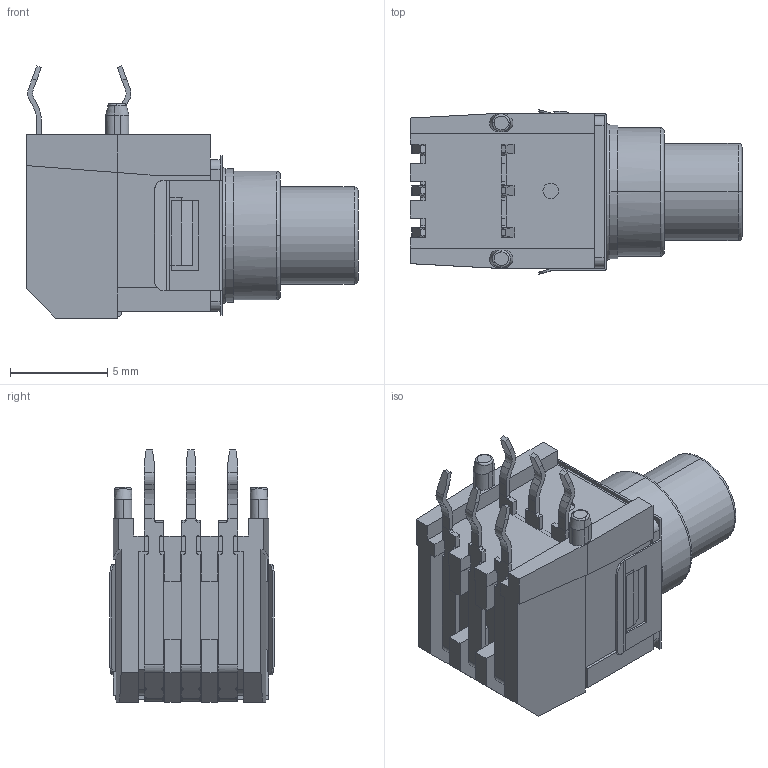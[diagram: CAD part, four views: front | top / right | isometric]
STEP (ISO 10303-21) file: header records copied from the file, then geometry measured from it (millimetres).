
FILE_DESCRIPTION (( 'STEP AP203' ), '1' );
FILE_NAME ('PTCT-xx.STEP', '2013-09-25T02:47:05', ( '970704' ), ( '' ), 'SwSTEP 2.0', 'SolidWorks 2007', '' );
FILE_SCHEMA (( 'CONFIG_CONTROL_DESIGN' ));
Length unit declared in the file: millimetre
Products named in the file (7): MLG-PT01_預設; PTCT折彎+熱熔_預設; PTCT-xx; 透明燈罩_預設; YC1-PT01_預設; FCP-PT01_預設; 鐵殼_預設
Assembly tree (6 placements, depth 2):
  PTCT-xx
    鐵殼_預設
    PTCT折彎+熱熔_預設
    FCP-PT01_預設
    YC1-PT01_預設
    透明燈罩_預設
    MLG-PT01_預設
Bounding box: 17.1 x 8.46 x 12.98 mm (x, y, z)
Volume: 767.6 mm3; surface area: 1634.8 mm2
Topology: 23 solids, 23 shells, 1058 faces, 2863 edges, 1867 vertices
Faces by surface type: plane 660, cylinder 350, bspline 40, torus 8
Entity records: 35592 total; most frequent: CARTESIAN_POINT 8071, ORIENTED_EDGE 5722, DIRECTION 5400, EDGE_CURVE 2861, VECTOR 2022, LINE 2022, VERTEX_POINT 1867, AXIS2_PLACEMENT_3D 1689
